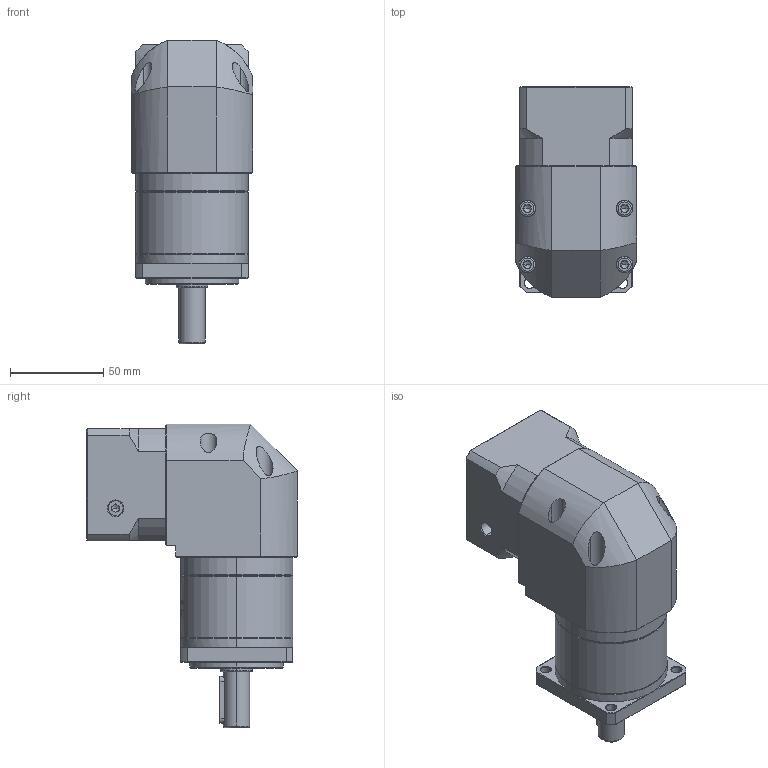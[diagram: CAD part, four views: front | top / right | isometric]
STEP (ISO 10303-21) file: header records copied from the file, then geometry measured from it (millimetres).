
FILE_DESCRIPTION (( 'STEP AP214' ), '1' );
FILE_NAME ('ZFR060-D14-L1-P2-8-30-46-M4.step', '2023-08-17T03:30:37', ( '' ), ( '' ), 'SwSTEP 2.0', 'SolidWorks 2016', '' );
FILE_SCHEMA (( 'AUTOMOTIVE_DESIGN' ));
Length unit declared in the file: millimetre
Products named in the file (1): ZFR060-D14-L1-P2-8-30-46-M4
Bounding box: 65 x 112.7 x 162.5 mm (x, y, z)
Volume: 544340.7 mm3; surface area: 80094.5 mm2
Topology: 5 solids, 6 shells, 1966 faces, 5287 edges, 3423 vertices
Faces by surface type: plane 845, bspline 418, cylinder 391, cone 286, torus 26
Entity records: 124104 total; most frequent: CARTESIAN_POINT 57854, ORIENTED_EDGE 10546, DIRECTION 7645, EDGE_CURVE 5273, VERTEX_POINT 3423, LINE 2591, VECTOR 2591, AXIS2_PLACEMENT_3D 2527
